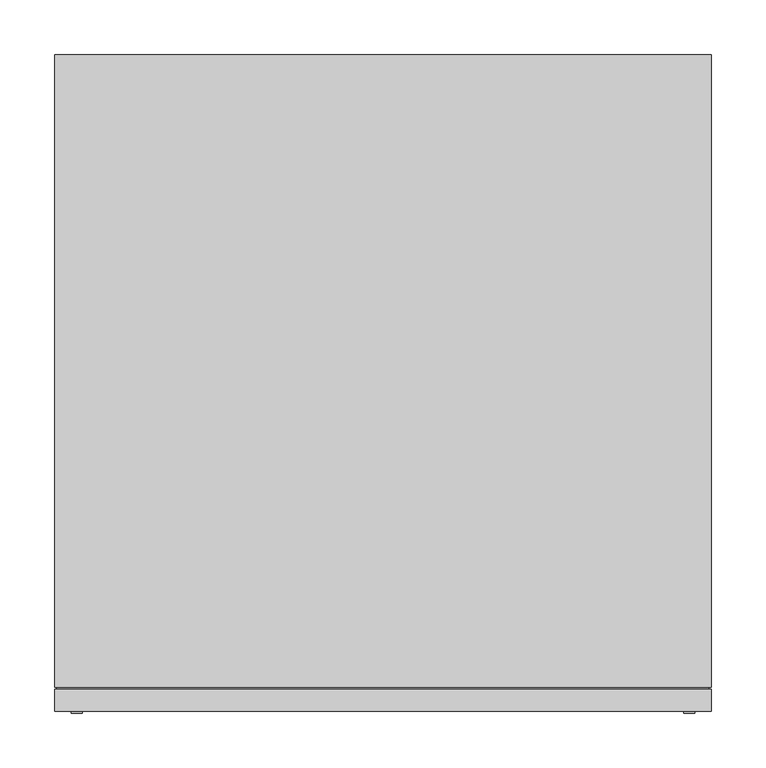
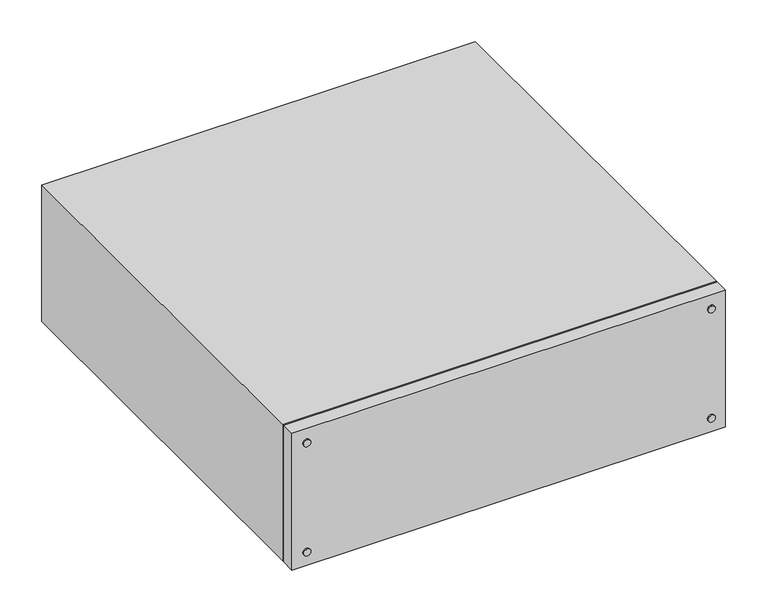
"""IFC4 building model written with IfcOpenShell, lengths in millimetres: proxy geometry, 20206_プルボックス_大_強電用 : 幹線設備."""

from ifc_helpers import new_model, si_unit, point, frame, frame_2d, origin, place, context, project, spatial, circle_curve, trimmed, segment, composite_curve, outline, extrude, faceted_brep, source, transform, mapped, element, save


def electrical_fixtures_92a770d1(model_context):
    return source(origin(), model_context, "Body", "SolidModel", [
        extrude(outline(composite_curve([segment(trimmed(circle_curve(frame_2d((180.0, -280.0)), 5.0), [point((180.0, -275.0))], [point((180.0, -285.0))], False, "CARTESIAN"), True, "CONTINUOUS"), segment(trimmed(circle_curve(frame_2d((180.0, -280.0)), 5.0), [point((180.0, -285.0))], [point((180.0, -275.0))], False, "CARTESIAN"), True, "CONTINUOUS")], self_intersect=False)), frame((0.0, -302.0, 0.0), z_axis=(0.0, 1.0, 0.0), x_axis=(0.0, 0.0, 1.0)), (0.0, 0.0, 1.0), 2.0),
        extrude(outline(composite_curve([segment(trimmed(circle_curve(frame_2d((180.0, 280.0)), 5.0), [point((180.0, 285.0))], [point((180.0, 275.0))], False, "CARTESIAN"), True, "CONTINUOUS"), segment(trimmed(circle_curve(frame_2d((180.0, 280.0)), 5.0), [point((180.0, 275.0))], [point((180.0, 285.0))], False, "CARTESIAN"), True, "CONTINUOUS")], self_intersect=False)), frame((0.0, -302.0, 0.0), z_axis=(0.0, 1.0, 0.0), x_axis=(0.0, 0.0, 1.0)), (0.0, 0.0, 1.0), 2.0),
        extrude(outline(composite_curve([segment(trimmed(circle_curve(frame_2d((20.0, -280.0)), 5.0), [point((20.0, -275.0))], [point((20.0, -285.0))], False, "CARTESIAN"), True, "CONTINUOUS"), segment(trimmed(circle_curve(frame_2d((20.0, -280.0)), 5.0), [point((20.0, -285.0))], [point((20.0, -275.0))], False, "CARTESIAN"), True, "CONTINUOUS")], self_intersect=False)), frame((0.0, -302.0, 0.0), z_axis=(0.0, 1.0, 0.0), x_axis=(0.0, 0.0, 1.0)), (0.0, 0.0, 1.0), 2.0),
        extrude(outline(composite_curve([segment(trimmed(circle_curve(frame_2d((20.0, 280.0)), 5.0), [point((20.0, 285.0))], [point((20.0, 275.0))], False, "CARTESIAN"), True, "CONTINUOUS"), segment(trimmed(circle_curve(frame_2d((20.0, 280.0)), 5.0), [point((20.0, 275.0))], [point((20.0, 285.0))], False, "CARTESIAN"), True, "CONTINUOUS")], self_intersect=False)), frame((0.0, -302.0, 0.0), z_axis=(0.0, 1.0, 0.0), x_axis=(0.0, 0.0, 1.0)), (0.0, 0.0, 1.0), 2.0),
        faceted_brep([(300.0, 300.0, 200.0), (-300.0, 300.0, 200.0), (-300.0, -278.1279995, 200.0), (300.0, -278.1279995, 200.0), (-300.0, -300.0, 200.0), (300.0, -300.0, 200.0), (300.0, -280.1279995, 200.0), (-300.0, -280.1279995, 200.0), (300.0, -300.0, 0.0), (-300.0, -300.0, 0.0), (-300.0, -280.1279995, 0.0), (300.0, -280.1279995, 0.0), (-300.0, 300.0, 0.0), (300.0, 300.0, 0.0), (300.0, -278.1279995, 0.0), (-300.0, -278.1279995, 0.0), (298.0, -280.1279995, 198.0), (298.0, -280.1279995, 2.0), (298.0, -278.1279995, 2.0), (298.0, -278.1279995, 198.0), (-298.0, -280.1279995, 2.0), (-298.0, -278.1279995, 2.0), (-298.0, -280.1279995, 198.0), (-298.0, -278.1279995, 198.0)], [[[0, 1, 2, 3]], [[4, 5, 6, 7]], [[8, 9, 10, 11]], [[12, 13, 14, 15]], [[1, 0, 13, 12]], [[1, 12, 15, 2]], [[9, 4, 7, 10]], [[5, 4, 9, 8]], [[13, 0, 3, 14]], [[5, 8, 11, 6]], [[16, 17, 18, 19]], [[18, 17, 20, 21]], [[21, 20, 22, 23]], [[3, 2, 15, 14], [19, 18, 21, 23]], [[16, 19, 23, 22]], [[7, 6, 11, 10], [17, 16, 22, 20]]]),
    ])


if __name__ == "__main__":
    model = new_model("IFC4")
    model_context = context("Model", 3, world=origin())
    ifc_project = project(units=[si_unit("LENGTHUNIT", "METRE", prefix="MILLI")], contexts=[model_context])
    site = spatial("IfcSite", under=ifc_project)
    building = spatial("IfcBuilding", under=site)
    placement = place(None, origin())
    electrical_fixtures_shape = electrical_fixtures_92a770d1(model_context)
    element("IfcBuildingElementProxy", 1, Name="20206_プルボックス_大_強電用 : 幹線設備", ObjectType="20206_プルボックス_大_強電用 : 幹線設備", at=placement, inside=building, context=model_context, shape_type="MappedRepresentation", body=[
        mapped(electrical_fixtures_shape, transform((0.0, 0.0, 0.0), x_axis=(1.0, 0.0, 0.0), y_axis=(0.0, 1.0, 0.0), z_axis=(0.0, 0.0, 1.0))),
    ])
    save(model, "model.ifc")
